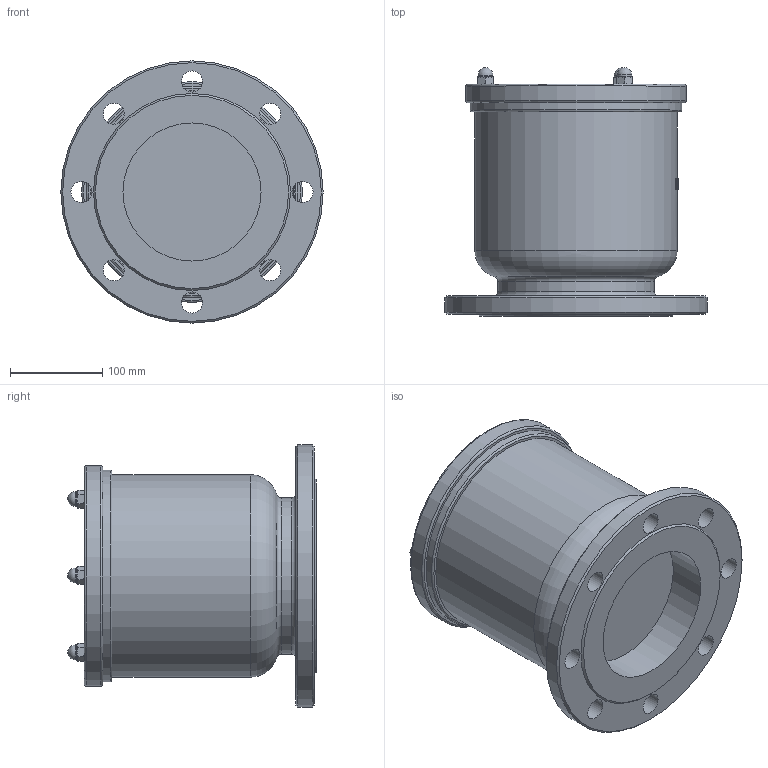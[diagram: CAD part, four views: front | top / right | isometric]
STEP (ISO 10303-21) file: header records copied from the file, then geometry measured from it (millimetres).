
FILE_DESCRIPTION(('STEP AP242'), '1');
FILE_NAME('AV1430-F Âîçäóõîîòâîä÷èê àâòîìàòè÷åñêèé DN.ru Äó150 Ðó10-16', '', ('UNSPECIFIED'), ('UNSPECIFIED'), 'C3D Converter', 'C3D Toolkit', '');
FILE_SCHEMA(('AP242_MANAGED_MODEL_BASED_3D_ENGINEERING_MIM_LF { 1 0 10303 442 1 1 4 }'));
Length unit declared in the file: millimetre
Products named in the file (1): AV1430-F
Bounding box: 285 x 270 x 285 mm (x, y, z)
Volume: 8866377.5 mm3; surface area: 402630.3 mm2
Topology: 1 solids, 5 shells, 175 faces, 419 edges, 266 vertices
Faces by surface type: plane 70, cone 45, cylinder 28, bspline 23, torus 6, sphere 3
Full cylindrical faces by diameter (mm): 8.376 x3, 16 x3, 23 x8, 150 x2, 170 x1, 220 x1, 230 x1, 240 x1, 285 x1
Entity records: 10874 total; most frequent: CARTESIAN_POINT 6178, ORIENTED_EDGE 748, DIRECTION 694, EDGE_CURVE 374, AXIS2_PLACEMENT_3D 293, VERTEX_POINT 260, EDGE_LOOP 242, FACE_BOUND 198
